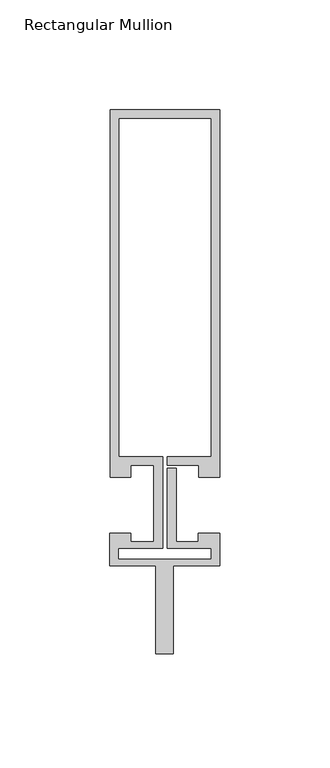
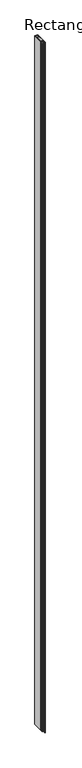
"""IFC4 building model written with IfcOpenShell, lengths in millimetres: member geometry, Rectangular Mullion : Reynaers_CW-50_Transom-Transom_167.5mm_Facecap-06B."""

import ifcopenshell
import ifcopenshell.guid

model = None  # the IFC model being written
_history = None  # IfcOwnerHistory: only IFC2X3 demands one
_inside = {}  # id of a spatial element -> (the spatial element, [elements in it])
_under = {}  # id of a project, library or spatial element -> (it, [spatial elements below it])
_declared = {}  # id of a project -> (the project, [libraries it declares])
_typed = {}  # id of a type object -> (the type object, [elements of that type])
_made_of = {}  # id of a material, layer set ... -> (it, [elements and type objects made of it])


def new_model(schema):
    """Start an empty IFC model of exactly this schema.

    Asked for "IFC4X3", IfcOpenShell would pick the latest addendum, in which some entities
    have other attributes; the version numbers below select the first issue.
    IFC2X3 requires an IfcOwnerHistory on every rooted entity: one is made here for all.
    """
    global model, _history
    if schema == "IFC4X3":
        model = ifcopenshell.file(schema_version=(4, 3, 0, 0))
    else:
        model = ifcopenshell.file(schema=schema)
    _inside.clear()
    _under.clear()
    _declared.clear()
    _typed.clear()
    _made_of.clear()
    _history = None
    if model.schema == "IFC2X3":
        org = make("IfcOrganization", Name="unknown")
        user = make(
            "IfcPersonAndOrganization",
            ThePerson=make("IfcPerson", FamilyName="unknown"),
            TheOrganization=org,
        )
        app = make(
            "IfcApplication",
            ApplicationDeveloper=org,
            Version="unknown",
            ApplicationFullName="unknown",
            ApplicationIdentifier="unknown",
        )
        _history = make(
            "IfcOwnerHistory",
            OwningUser=user,
            OwningApplication=app,
            ChangeAction="ADDED",
            CreationDate=0,
        )
    return model


def make(cls, **values):
    """One entity of the class cls with the attributes given. An attribute that is None is left unset."""
    return model.create_entity(
        cls, **{name: value for name, value in values.items() if value is not None}
    )


def rooted(cls, **values):
    """An entity with a GlobalId (a new one), such as an element, a storey or a relation."""
    return make(cls, GlobalId=ifcopenshell.guid.new(), OwnerHistory=_history, **values)


def si_unit(unit_type, name, prefix=None):
    """IfcSIUnit, for example si_unit("LENGTHUNIT", "METRE", prefix="MILLI")."""
    return make("IfcSIUnit", UnitType=unit_type, Prefix=prefix, Name=name)


def assignment(units):
    """IfcUnitAssignment: the units of a project."""
    return None if units is None else make("IfcUnitAssignment", Units=units)


def point(xyz):
    """IfcCartesianPoint."""
    return None if xyz is None else make("IfcCartesianPoint", Coordinates=xyz)


def direction(xyz):
    """IfcDirection."""
    return None if xyz is None else make("IfcDirection", DirectionRatios=xyz)


def frame(location, z_axis=None, x_axis=None):
    """IfcAxis2Placement3D, a coordinate frame: its origin and axes. An axis left out is left unset."""
    return make(
        "IfcAxis2Placement3D",
        Location=point(location),
        Axis=direction(z_axis),
        RefDirection=direction(x_axis),
    )


def origin():
    """The frame at (0, 0, 0) with its axes left unset."""
    return frame((0.0, 0.0, 0.0))


def place(relative_to, where):
    """IfcLocalPlacement: puts the frame where relative to a parent placement (None: the world)."""
    return make(
        "IfcLocalPlacement", PlacementRelTo=relative_to, RelativePlacement=where
    )


def context(
    kind, dimensions, precision=None, world=None, true_north=None, identifier=None
):
    """IfcGeometricRepresentationContext, for example the 3D "Model" context."""
    return make(
        "IfcGeometricRepresentationContext",
        ContextIdentifier=identifier,
        ContextType=kind,
        CoordinateSpaceDimension=dimensions,
        Precision=precision,
        WorldCoordinateSystem=world,
        TrueNorth=true_north,
    )


def project(units=None, contexts=None):
    """IfcProject with its units and contexts."""
    return rooted(
        "IfcProject",
        Name="project",
        RepresentationContexts=contexts,
        UnitsInContext=assignment(units),
    )


def spatial(cls, under=None, at=None, **own):
    """A site, building, storey or space (cls), placed at a placement, below another one or the project."""
    s = rooted(cls, ObjectPlacement=at, **own)
    if under is not None:
        _under.setdefault(under.id(), (under, []))[1].append(s)
    return s


def polyline(points):
    """IfcPolyline through the points."""
    return make("IfcPolyline", Points=[point(p) for p in points])


def outline(outer, holes=None, kind="AREA"):
    """IfcArbitraryClosedProfileDef: a profile drawn as a closed curve; with holes, ...WithVoids."""
    if holes is None:
        return make("IfcArbitraryClosedProfileDef", ProfileType=kind, OuterCurve=outer)
    return make(
        "IfcArbitraryProfileDefWithVoids",
        ProfileType=kind,
        OuterCurve=outer,
        InnerCurves=holes,
    )


def extrude(swept, where, along, depth):
    """IfcExtrudedAreaSolid: the profile swept, set in the frame where, extruded along a direction by depth."""
    return make(
        "IfcExtrudedAreaSolid",
        SweptArea=swept,
        Position=where,
        ExtrudedDirection=direction(along),
        Depth=depth,
    )


def shape(context_of_items, identifier, shape_type, items):
    """IfcShapeRepresentation: the items that make up one representation, for example the "Body"."""
    return make(
        "IfcShapeRepresentation",
        ContextOfItems=context_of_items,
        RepresentationIdentifier=identifier,
        RepresentationType=shape_type,
        Items=items,
    )


def source(mapping_origin, context_of_items, identifier, shape_type, items):
    """IfcRepresentationMap: a shape defined once, which mapped items show again and again."""
    return make(
        "IfcRepresentationMap",
        MappingOrigin=mapping_origin,
        MappedRepresentation=shape(context_of_items, identifier, shape_type, items),
    )


def transform(
    local_origin,
    x_axis=None,
    y_axis=None,
    z_axis=None,
    scale=None,
    scale2=None,
    scale3=None,
    uniform=True,
):
    """IfcCartesianTransformationOperator3D, or its non-uniform kind. x_axis, y_axis, z_axis: its Axis1, 2, 3."""
    if uniform:
        return make(
            "IfcCartesianTransformationOperator3D",
            Axis1=direction(x_axis),
            Axis2=direction(y_axis),
            LocalOrigin=point(local_origin),
            Scale=scale,
            Axis3=direction(z_axis),
        )
    return make(
        "IfcCartesianTransformationOperator3DnonUniform",
        Axis1=direction(x_axis),
        Axis2=direction(y_axis),
        LocalOrigin=point(local_origin),
        Scale=scale,
        Axis3=direction(z_axis),
        Scale2=scale2,
        Scale3=scale3,
    )


def mapped(mapping_source, mapping_target):
    """IfcMappedItem: shows the shape of a source again, moved by a transform."""
    return make(
        "IfcMappedItem", MappingSource=mapping_source, MappingTarget=mapping_target
    )


def made_of(thing, what):
    """Note that an element or type object is made of a material, layer set ...; save() writes the relation."""
    if what is not None:
        _made_of.setdefault(what.id(), (what, []))[1].append(thing)
    return thing


def element(
    cls,
    number,
    at=None,
    inside=None,
    cuts=None,
    type_object=None,
    material=None,
    context=None,
    identifier="Body",
    shape_type=None,
    held_by="IfcProductDefinitionShape",
    body=None,
    shapes=None,
    **own,
):
    """One element of the class cls, such as IfcWall. Its Tag is "e" and its number.

    at: its placement. inside: the storey or other place that contains it. cuts: it is an
    opening in that element (IfcRelVoidsElement). A single representation is given by context,
    identifier, shape_type and body (its items); several are given by shapes. held_by: the class
    of the entity that holds the representations. save() writes the other relations.
    """
    e = rooted(cls, Tag="e%d" % number, ObjectPlacement=at, **own)
    if body is not None:
        shapes = [shape(context, identifier, shape_type, body)]
    if shapes is not None:
        e.Representation = make(held_by, Representations=shapes)
    if inside is not None:
        _inside.setdefault(inside.id(), (inside, []))[1].append(e)
    if cuts is not None:
        rooted(
            "IfcRelVoidsElement", RelatingBuildingElement=cuts, RelatedOpeningElement=e
        )
    if type_object is not None:
        _typed.setdefault(type_object.id(), (type_object, []))[1].append(e)
    return made_of(e, material)


def aggregate(whole, parts):
    """IfcRelAggregates: a whole, such as a stair, and the parts it consists of."""
    return rooted("IfcRelAggregates", RelatingObject=whole, RelatedObjects=parts)


def save(model, path):
    """Write the relations noted so far, then the file.

    IfcRelAggregates (storeys below a building ...), IfcRelContainedInSpatialStructure (elements
    in a storey), IfcRelDefinesByType, IfcRelAssociatesMaterial and IfcRelDeclares: one each for
    every whole, place, type object, material and project.
    """
    for whole, parts in _under.values():
        aggregate(whole, parts)
    for where, things in _inside.values():
        rooted(
            "IfcRelContainedInSpatialStructure",
            RelatedElements=things,
            RelatingStructure=where,
        )
    for kind, things in _typed.values():
        rooted("IfcRelDefinesByType", RelatedObjects=things, RelatingType=kind)
    for what, things in _made_of.values():
        rooted("IfcRelAssociatesMaterial", RelatedObjects=things, RelatingMaterial=what)
    for by, libraries in _declared.values():
        rooted("IfcRelDeclares", RelatingContext=by, RelatedDefinitions=libraries)
    model.write(path)


def rectangular_mullion_9865d1ee(model_context):
    return source(origin(), model_context, "Body", "SweptSolid", [
        extrude(outline(polyline([(25.1995941, 12.7331291), (15.499, 12.7331291), (15.499, 18.1331291), (1.2995941, 18.1331291), (1.2995941, 22.1331291), (21.1995941, 22.1331291), (21.1995941, 176.2331291), (-20.8004059, 176.2331291), (-20.8004059, 22.1331291), (-0.9004059, 22.1331291), (-0.9004059, -19.7331291), (-20.994845, -19.7331291), (-20.994845, -24.6522629), (21.1995941, -24.6522629), (21.1995941, -19.7331291), (1.2995941, -19.7331291), (1.2995941, 16.7615089), (5.2995941, 16.7615089), (5.2995941, -16.7331291), (15.2996495, -16.7331291), (15.2996495, -12.7331291), (25.1995941, -12.7331291), (25.1995941, -27.7331291), (4.004855, -27.7331291), (4.004855, -67.7331291), (-3.995145, -67.7331291), (-3.995145, -27.7331291), (-24.994845, -27.7331291), (-24.994845, -12.7331291), (-15.2996495, -12.7331291), (-15.2996495, -16.7331291), (-4.9004059, -16.7331291), (-4.9004059, 18.1331291), (-15.499, 18.1331291), (-15.499, 12.7331291), (-24.8004059, 12.7331291), (-24.8004059, 180.2331291), (25.1995941, 180.2331291), (25.1995941, 12.7331291)])), frame((0.0, 0.0, -12000.0), z_axis=(0.0, 0.0, 1.0), x_axis=(1.0, 0.0, 0.0)), (0.0, 0.0, 1.0), 12000.0),
    ])


if __name__ == "__main__":
    model = new_model("IFC4")
    model_context = context("Model", 3, world=origin())
    ifc_project = project(units=[si_unit("LENGTHUNIT", "METRE", prefix="MILLI")], contexts=[model_context])
    site = spatial("IfcSite", under=ifc_project)
    building = spatial("IfcBuilding", under=site)
    placement = place(None, origin())
    rectangular_mullion_shape = rectangular_mullion_9865d1ee(model_context)
    element("IfcMember", 1, ObjectType="Rectangular Mullion : Reynaers_CW-50_Transom-Transom_167.5mm_Facecap-06B", at=placement, inside=building, context=model_context, shape_type="MappedRepresentation", body=[
        mapped(rectangular_mullion_shape, transform((0.0, 0.0, 0.0), x_axis=(1.0, 0.0, 0.0), y_axis=(0.0, 1.0, 0.0), z_axis=(0.0, 0.0, 1.0))),
    ])
    save(model, "model.ifc")
